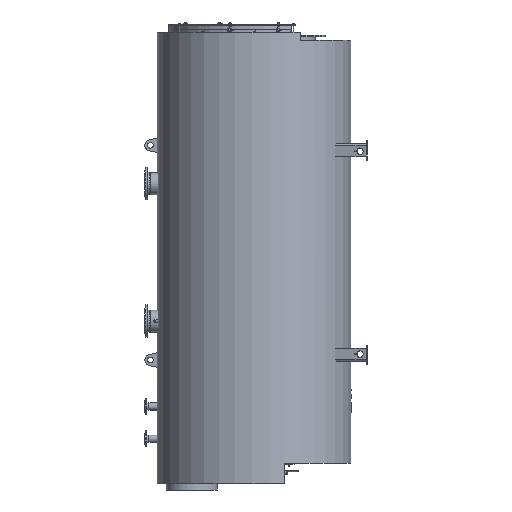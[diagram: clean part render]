
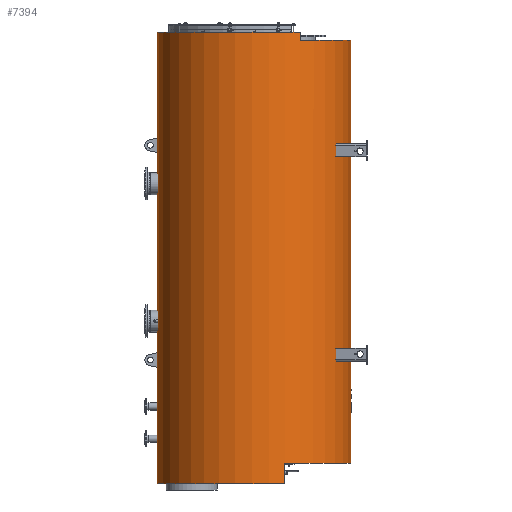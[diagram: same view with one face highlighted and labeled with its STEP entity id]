
A CAD part, left-side view. The second image highlights one B-rep face of the part: STEP entity #7394.
In plain terms, the highlighted cylindrical face has radius 1200 mm (diameter 2400 mm), a full revolution.
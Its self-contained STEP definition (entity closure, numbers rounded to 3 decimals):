
#5116=CYLINDRICAL_SURFACE('',#27023,1200.);
#5580=B_SPLINE_CURVE_WITH_KNOTS('',3,(#36243,#36244,#36245,#36246,#36247,
#36248,#36249,#36250,#36251,#36252,#36253,#36254,#36255,#36256,#36257,#36258,
#36259,#36260,#36261,#36262,#36263,#36264,#36265,#36266,#36267,#36268,#36269,
#36270,#36271,#36272,#36273,#36274,#36275,#36276,#36277,#36278,#36279,#36280,
#36281,#36282,#36283,#36284,#36285,#36286,#36287,#36288,#36289,#36290,#36291,
#36292,#36293,#36294,#36295,#36296,#36297,#36298,#36299,#36300,#36301,#36302,
#36303,#36304,#36305,#36306),.UNSPECIFIED.,.T.,.F.,(2,2,2,2,2,2,2,2,2,2,
2,2,2,2,2,2,2,2,2,2,2,2,2,2,2,2,2,2,2,2,2,2,2,2),(-0.062,0.,
0.031,0.063,0.094,0.125,0.156,0.188,0.219,0.25,0.281,0.313,
0.344,0.375,0.406,0.438,0.469,0.5,0.531,0.563,0.594,0.625,0.656,
0.688,0.719,0.75,0.781,0.813,0.844,0.875,0.906,0.938,1.,1.031),
 .UNSPECIFIED.);
#6078=FACE_BOUND('',#10321,.T.);
#6079=FACE_BOUND('',#10322,.T.);
#6080=FACE_BOUND('',#10323,.T.);
#7394=ADVANCED_FACE('',(#6078,#6079,#6080),#5116,.T.);
#10321=EDGE_LOOP('',(#15100,#15101,#15102,#15103));
#10322=EDGE_LOOP('',(#15104));
#10323=EDGE_LOOP('',(#15105,#15106,#15107,#15108));
#12458=LINE('',#36238,#13755);
#12459=LINE('',#36242,#13756);
#12460=LINE('',#36311,#13757);
#12461=LINE('',#36312,#13758);
#13755=VECTOR('',#29641,1.);
#13756=VECTOR('',#29644,1.);
#13757=VECTOR('',#29647,1.);
#13758=VECTOR('',#29648,1.);
#15100=ORIENTED_EDGE('',*,*,#23075,.T.);
#15101=ORIENTED_EDGE('',*,*,#23076,.T.);
#15102=ORIENTED_EDGE('',*,*,#23077,.F.);
#15103=ORIENTED_EDGE('',*,*,#23060,.F.);
#15104=ORIENTED_EDGE('',*,*,#23078,.F.);
#15105=ORIENTED_EDGE('',*,*,#23079,.T.);
#15106=ORIENTED_EDGE('',*,*,#23080,.F.);
#15107=ORIENTED_EDGE('',*,*,#23073,.T.);
#15108=ORIENTED_EDGE('',*,*,#23081,.T.);
#20893=VERTEX_POINT('',#36165);
#20894=VERTEX_POINT('',#36166);
#20899=VERTEX_POINT('',#36178);
#20906=VERTEX_POINT('',#36191);
#20908=VERTEX_POINT('',#36239);
#20909=VERTEX_POINT('',#36241);
#20910=VERTEX_POINT('',#36307);
#20911=VERTEX_POINT('',#36309);
#20912=VERTEX_POINT('',#36310);
#23060=EDGE_CURVE('',#20893,#20894,#25964,.T.);
#23073=EDGE_CURVE('',#20899,#20906,#25967,.T.);
#23075=EDGE_CURVE('',#20893,#20908,#12458,.T.);
#23076=EDGE_CURVE('',#20908,#20909,#25968,.T.);
#23077=EDGE_CURVE('',#20894,#20909,#12459,.T.);
#23078=EDGE_CURVE('',#20910,#20910,#5580,.T.);
#23079=EDGE_CURVE('',#20911,#20912,#25969,.T.);
#23080=EDGE_CURVE('',#20899,#20912,#12460,.T.);
#23081=EDGE_CURVE('',#20906,#20911,#12461,.T.);
#25964=CIRCLE('',#27015,1200.);
#25967=CIRCLE('',#27019,1200.);
#25968=CIRCLE('',#27021,1200.);
#25969=CIRCLE('',#27022,1200.);
#27015=AXIS2_PLACEMENT_3D('',#36164,#29619,#29620);
#27019=AXIS2_PLACEMENT_3D('',#36192,#29637,#29638);
#27021=AXIS2_PLACEMENT_3D('',#36240,#29642,#29643);
#27022=AXIS2_PLACEMENT_3D('',#36308,#29645,#29646);
#27023=AXIS2_PLACEMENT_3D('',#36313,#29649,#29650);
#29619=DIRECTION('',(0.,0.,1.));
#29620=DIRECTION('',(1.,0.,0.));
#29637=DIRECTION('',(0.,0.,1.));
#29638=DIRECTION('',(1.,0.,0.));
#29641=DIRECTION('',(0.,0.,-1.));
#29642=DIRECTION('',(0.,0.,-1.));
#29643=DIRECTION('',(1.,0.,0.));
#29644=DIRECTION('',(0.,0.,-1.));
#29645=DIRECTION('',(0.,0.,1.));
#29646=DIRECTION('',(1.,0.,0.));
#29647=DIRECTION('',(0.,0.,-1.));
#29648=DIRECTION('',(0.,0.,-1.));
#29649=DIRECTION('',(0.,0.,1.));
#29650=DIRECTION('',(1.,0.,0.));
#36164=CARTESIAN_POINT('',(0.,0.,200.));
#36165=CARTESIAN_POINT('',(1055.983,-570.,200.));
#36166=CARTESIAN_POINT('',(-1055.983,-570.,200.));
#36178=CARTESIAN_POINT('',(-1138.244,-380.,-5137.));
#36191=CARTESIAN_POINT('',(1138.244,-380.,-5137.));
#36192=CARTESIAN_POINT('',(0.,0.,-5137.));
#36238=CARTESIAN_POINT('',(1055.983,-570.,220.));
#36239=CARTESIAN_POINT('',(1055.983,-570.,100.));
#36240=CARTESIAN_POINT('',(0.,0.,100.));
#36241=CARTESIAN_POINT('',(-1055.983,-570.,100.));
#36242=CARTESIAN_POINT('',(-1055.983,-570.,220.));
#36243=CARTESIAN_POINT('',(-11.235,-1200.,-4392.));
#36244=CARTESIAN_POINT('',(5.617,-1200.,-4392.));
#36245=CARTESIAN_POINT('',(11.141,-1199.961,-4391.449));
#36246=CARTESIAN_POINT('',(22.006,-1199.811,-4389.289));
#36247=CARTESIAN_POINT('',(27.405,-1199.698,-4387.654));
#36248=CARTESIAN_POINT('',(37.698,-1199.419,-4383.386));
#36249=CARTESIAN_POINT('',(42.58,-1199.253,-4380.776));
#36250=CARTESIAN_POINT('',(51.818,-1198.89,-4374.607));
#36251=CARTESIAN_POINT('',(56.191,-1198.69,-4371.018));
#36252=CARTESIAN_POINT('',(64.029,-1198.297,-4363.178));
#36253=CARTESIAN_POINT('',(67.547,-1198.101,-4358.9));
#36254=CARTESIAN_POINT('',(73.761,-1197.735,-4349.61));
#36255=CARTESIAN_POINT('',(76.4,-1197.567,-4344.665));
#36256=CARTESIAN_POINT('',(80.64,-1197.289,-4334.438));
#36257=CARTESIAN_POINT('',(82.273,-1197.177,-4329.08));
#36258=CARTESIAN_POINT('',(84.457,-1197.025,-4318.107));
#36259=CARTESIAN_POINT('',(84.997,-1196.986,-4312.591));
#36260=CARTESIAN_POINT('',(85.003,-1196.986,-4301.501));
#36261=CARTESIAN_POINT('',(84.451,-1197.025,-4295.868));
#36262=CARTESIAN_POINT('',(82.282,-1197.176,-4284.965));
#36263=CARTESIAN_POINT('',(80.677,-1197.287,-4279.666));
#36264=CARTESIAN_POINT('',(76.421,-1197.566,-4269.373));
#36265=CARTESIAN_POINT('',(73.761,-1197.735,-4264.397));
#36266=CARTESIAN_POINT('',(67.61,-1198.098,-4255.187));
#36267=CARTESIAN_POINT('',(64.098,-1198.293,-4250.894));
#36268=CARTESIAN_POINT('',(56.167,-1198.691,-4242.955));
#36269=CARTESIAN_POINT('',(51.871,-1198.887,-4239.435));
#36270=CARTESIAN_POINT('',(42.669,-1199.25,-4233.277));
#36271=CARTESIAN_POINT('',(37.701,-1199.419,-4230.615));
#36272=CARTESIAN_POINT('',(27.404,-1199.698,-4226.346));
#36273=CARTESIAN_POINT('',(22.106,-1199.809,-4224.737));
#36274=CARTESIAN_POINT('',(11.213,-1199.96,-4222.56));
#36275=CARTESIAN_POINT('',(5.579,-1200.,-4222.002));
#36276=CARTESIAN_POINT('',(-5.517,-1200.,-4221.998));
#36277=CARTESIAN_POINT('',(-11.032,-1199.962,-4222.534));
#36278=CARTESIAN_POINT('',(-21.995,-1199.811,-4224.705));
#36279=CARTESIAN_POINT('',(-27.367,-1199.699,-4226.336));
#36280=CARTESIAN_POINT('',(-37.599,-1199.422,-4230.567));
#36281=CARTESIAN_POINT('',(-42.536,-1199.255,-4233.197));
#36282=CARTESIAN_POINT('',(-51.842,-1198.889,-4239.408));
#36283=CARTESIAN_POINT('',(-56.124,-1198.693,-4242.923));
#36284=CARTESIAN_POINT('',(-63.968,-1198.3,-4250.752));
#36285=CARTESIAN_POINT('',(-67.56,-1198.101,-4255.12));
#36286=CARTESIAN_POINT('',(-73.739,-1197.736,-4264.357));
#36287=CARTESIAN_POINT('',(-76.354,-1197.57,-4269.236));
#36288=CARTESIAN_POINT('',(-80.627,-1197.29,-4279.517));
#36289=CARTESIAN_POINT('',(-82.269,-1197.177,-4284.92));
#36290=CARTESIAN_POINT('',(-84.439,-1197.026,-4295.786));
#36291=CARTESIAN_POINT('',(-84.994,-1196.986,-4301.306));
#36292=CARTESIAN_POINT('',(-85.006,-1196.985,-4312.526));
#36293=CARTESIAN_POINT('',(-84.458,-1197.025,-4318.067));
#36294=CARTESIAN_POINT('',(-82.308,-1197.174,-4328.933));
#36295=CARTESIAN_POINT('',(-80.681,-1197.287,-4334.326));
#36296=CARTESIAN_POINT('',(-76.42,-1197.566,-4344.632));
#36297=CARTESIAN_POINT('',(-73.812,-1197.732,-4349.516));
#36298=CARTESIAN_POINT('',(-67.656,-1198.095,-4358.754));
#36299=CARTESIAN_POINT('',(-64.07,-1198.295,-4363.132));
#36300=CARTESIAN_POINT('',(-56.234,-1198.688,-4370.981));
#36301=CARTESIAN_POINT('',(-51.959,-1198.884,-4374.501));
#36302=CARTESIAN_POINT('',(-42.684,-1199.25,-4380.717));
#36303=CARTESIAN_POINT('',(-37.732,-1199.418,-4383.367));
#36304=CARTESIAN_POINT('',(-22.396,-1199.835,-4389.741));
#36305=CARTESIAN_POINT('',(-11.235,-1200.,-4392.));
#36306=CARTESIAN_POINT('',(5.617,-1200.,-4392.));
#36307=CARTESIAN_POINT('',(0.,-1200.,-4392.));
#36308=CARTESIAN_POINT('',(0.,0.,-5390.));
#36309=CARTESIAN_POINT('',(1138.244,-380.,-5390.));
#36310=CARTESIAN_POINT('',(-1138.244,-380.,-5390.));
#36311=CARTESIAN_POINT('',(-1138.244,-380.,-5137.));
#36312=CARTESIAN_POINT('',(1138.244,-380.,-5137.));
#36313=CARTESIAN_POINT('',(0.,0.,-5390.));
